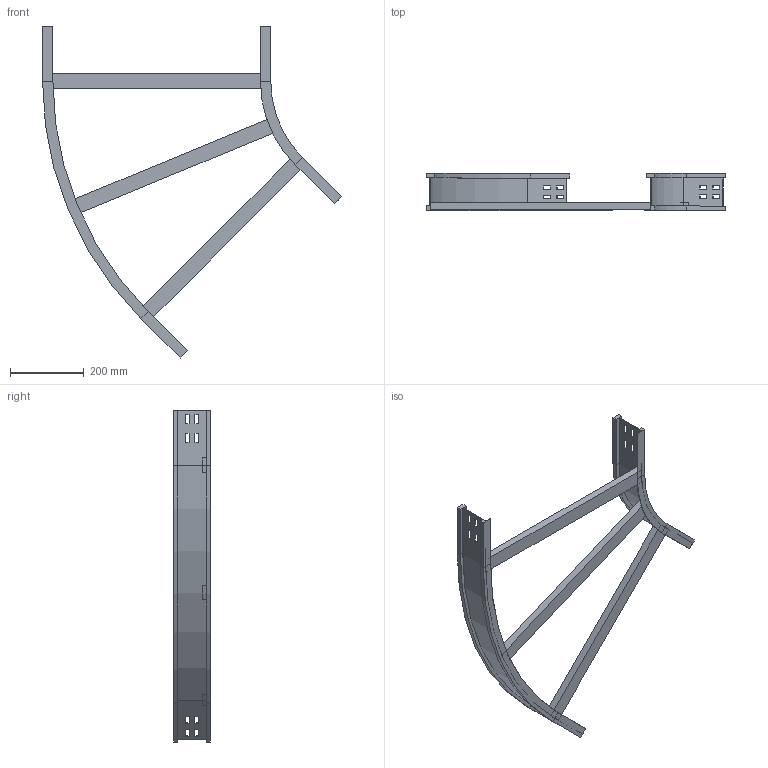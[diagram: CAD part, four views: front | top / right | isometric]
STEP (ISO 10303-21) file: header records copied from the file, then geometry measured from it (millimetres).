
FILE_DESCRIPTION (( 'STEP AP214' ), '1' );
FILE_NAME ('11S3D600.step', '2025-02-21T16:03:17', ( '' ), ( '' ), 'SwSTEP 2.0', 'SolidWorks 2023', '' );
FILE_SCHEMA (( 'AUTOMOTIVE_DESIGN' ));
Length unit declared in the file: millimetre
Products named in the file (4): LONGH.INTERNO 45°_H100_R300; LONGH.ESTERNO 45°_H100_R300+600; 11S3D600; TRAVERSINO_600
Assembly tree (5 placements, depth 2):
  11S3D600
    LONGH.INTERNO 45°_H100_R300
    LONGH.ESTERNO 45°_H100_R300+600
    TRAVERSINO_600  x3
Bounding box: 809.3 x 100 x 898.83 mm (x, y, z)
Volume: 2263208.9 mm3; surface area: 676239.9 mm2
Topology: 5 solids, 5 shells, 158 faces, 396 edges, 248 vertices
Faces by surface type: plane 146, cylinder 12
Entity records: 4477 total; most frequent: CARTESIAN_POINT 758, ORIENTED_EDGE 744, DIRECTION 704, EDGE_CURVE 372, VECTOR 348, LINE 348, VERTEX_POINT 232, AXIS2_PLACEMENT_3D 178
